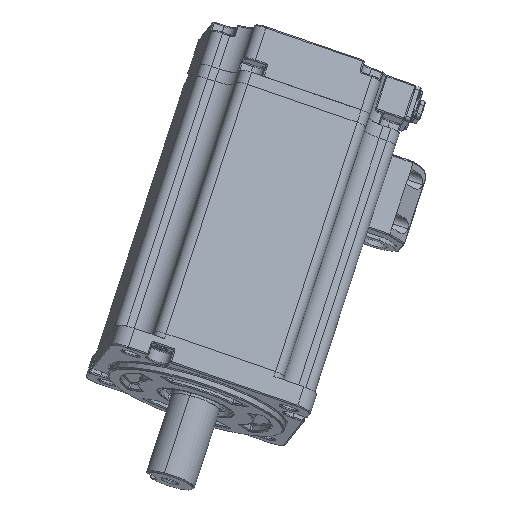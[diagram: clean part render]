
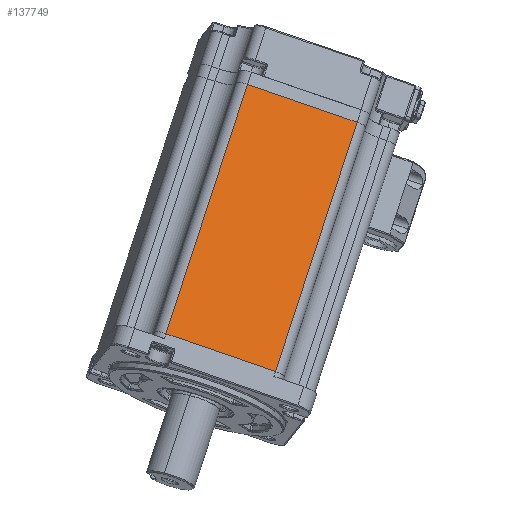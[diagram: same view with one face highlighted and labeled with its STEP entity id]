
A CAD part, top view. The second image highlights one B-rep face of the part: STEP entity #137749.
In plain terms, the highlighted planar face has unit normal (0.138, 0.17, 0.976) as drawn and (0, -1, 0) by its records, which use the part's own axes.
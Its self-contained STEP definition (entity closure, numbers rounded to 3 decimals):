
#1977 = CARTESIAN_POINT ( 'NONE',  ( -22., -40., 101.5 ) ) ;
#5387 = EDGE_CURVE ( 'NONE', #60883, #111666, #140314, .T. ) ;
#19435 = PLANE ( 'NONE',  #105790 ) ;
#19775 = EDGE_CURVE ( 'NONE', #143688, #60883, #59481, .T. ) ;
#23594 = ORIENTED_EDGE ( 'NONE', *, *, #83865, .T. ) ;
#24258 = ORIENTED_EDGE ( 'NONE', *, *, #38057, .T. ) ;
#31268 = DIRECTION ( 'NONE',  ( 0., 1., 0. ) ) ;
#35034 = CARTESIAN_POINT ( 'NONE',  ( -22., -40., 0. ) ) ;
#38057 = EDGE_CURVE ( 'NONE', #46607, #111666, #81229, .T. ) ;
#46607 = VERTEX_POINT ( 'NONE', #35034 ) ;
#56669 = CARTESIAN_POINT ( 'NONE',  ( -22., -40., 0. ) ) ;
#58413 = CARTESIAN_POINT ( 'NONE',  ( 22., -40., 0. ) ) ;
#59481 = LINE ( 'NONE', #155191, #126574 ) ;
#60271 = VECTOR ( 'NONE', #106218, 1000. ) ;
#60883 = VERTEX_POINT ( 'NONE', #109243 ) ;
#65349 = FACE_OUTER_BOUND ( 'NONE', #78973, .T. ) ;
#67279 = DIRECTION ( 'NONE',  ( 1., 0., 0. ) ) ;
#70845 = CARTESIAN_POINT ( 'NONE',  ( 22., -40., 101.5 ) ) ;
#78973 = EDGE_LOOP ( 'NONE', ( #24258, #86751, #86412, #23594 ) ) ;
#81229 = LINE ( 'NONE', #56669, #134860 ) ;
#81397 = DIRECTION ( 'NONE',  ( 1., 0., 0. ) ) ;
#81444 = LINE ( 'NONE', #94937, #60271 ) ;
#83195 = DIRECTION ( 'NONE',  ( 0., 0., -1. ) ) ;
#83865 = EDGE_CURVE ( 'NONE', #143688, #46607, #81444, .T. ) ;
#86412 = ORIENTED_EDGE ( 'NONE', *, *, #19775, .F. ) ;
#86751 = ORIENTED_EDGE ( 'NONE', *, *, #5387, .F. ) ;
#94937 = CARTESIAN_POINT ( 'NONE',  ( -22., -40., 101.5 ) ) ;
#105790 = AXIS2_PLACEMENT_3D ( 'NONE', #152392, #31268, #115430 ) ;
#106218 = DIRECTION ( 'NONE',  ( 0., 0., -1. ) ) ;
#109243 = CARTESIAN_POINT ( 'NONE',  ( 22., -40., 101.5 ) ) ;
#111666 = VERTEX_POINT ( 'NONE', #58413 ) ;
#115430 = DIRECTION ( 'NONE',  ( 0., 0., 1. ) ) ;
#123112 = VECTOR ( 'NONE', #83195, 1000. ) ;
#126574 = VECTOR ( 'NONE', #67279, 1000. ) ;
#134860 = VECTOR ( 'NONE', #81397, 1000. ) ;
#137749 = ADVANCED_FACE ( 'NONE', ( #65349 ), #19435, .F. ) ;
#140314 = LINE ( 'NONE', #70845, #123112 ) ;
#143688 = VERTEX_POINT ( 'NONE', #1977 ) ;
#152392 = CARTESIAN_POINT ( 'NONE',  ( -22., -40., 101.5 ) ) ;
#155191 = CARTESIAN_POINT ( 'NONE',  ( -22., -40., 101.5 ) ) ;
